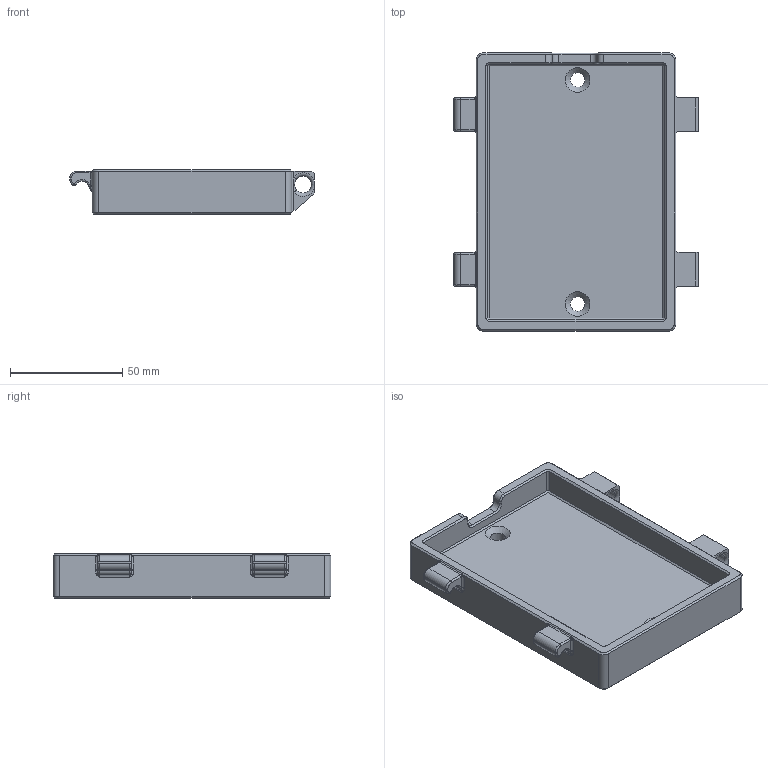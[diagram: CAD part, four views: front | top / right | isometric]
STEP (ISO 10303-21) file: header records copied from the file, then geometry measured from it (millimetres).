
FILE_DESCRIPTION(/* description */ (''),/* implementation_level */ '2;1');
FILE_NAME(/* name */ 'HMD01_3000_001.stp',/* time_stamp */ '2026-07-04T16:03:29+02:00',/* author */ (''),/* organization */ (''),/* preprocessor_version */ 'ST-DEVELOPER v16',/* originating_system */ 'SIEMENS PLM Software NX 11.0',/* authorisation */ '');
FILE_SCHEMA (('AUTOMOTIVE_DESIGN { 1 0 10303 214 3 1 1 1 }'));
Length unit declared in the file: millimetre
Products named in the file (1): se2B5C8851nlo5
Bounding box: 109 x 124 x 20 mm (x, y, z)
Volume: 115565.7 mm3; surface area: 36480.4 mm2
Topology: 1 solids, 1 shells, 196 faces, 474 edges, 272 vertices
Faces by surface type: plane 72, cylinder 46, torus 28, cone 26, bspline 24
Full cylindrical faces by diameter (mm): 6.5 x2, 7.5 x2
Entity records: 6086 total; most frequent: CARTESIAN_POINT 1607, DIRECTION 950, ORIENTED_EDGE 924, EDGE_CURVE 462, AXIS2_PLACEMENT_3D 355, VERTEX_POINT 270, LINE 240, VECTOR 240
